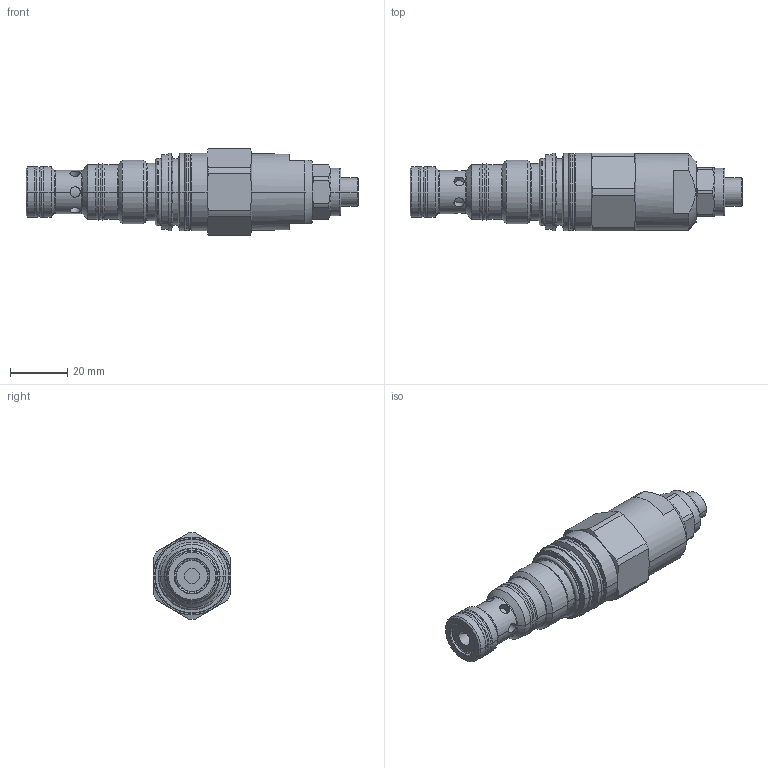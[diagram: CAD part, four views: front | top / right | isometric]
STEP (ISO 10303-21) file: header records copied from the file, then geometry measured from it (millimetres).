
FILE_DESCRIPTION((''),'2;1');
FILE_NAME('SOB5A-BPY3_SIMPLE','2019-02-27T',('l.soukupova'),(''),'PRO/ENGINEER BY PARAMETRIC TECHNOLOGY CORPORATION, 2015440','PRO/ENGINEER BY PARAMETRIC TECHNOLOGY CORPORATION, 2015440','');
FILE_SCHEMA(('AUTOMOTIVE_DESIGN { 1 0 10303 214 1 1 1 1 }'));
Length unit declared in the file: millimetre
Products named in the file (1): SOB5A-BPY3_SIMPLE
Bounding box: 115.5 x 27.08 x 29.99 mm (x, y, z)
Volume: 44327.5 mm3; surface area: 10592.1 mm2
Topology: 1 solids, 1 shells, 219 faces, 487 edges, 294 vertices
Faces by surface type: cylinder 89, cone 56, plane 45, torus 29
Entity records: 9345 total; most frequent: CARTESIAN_POINT 2964, DIRECTION 1068, ORIENTED_EDGE 968, PRESENTATION_STYLE_ASSIGNMENT 489, STYLED_ITEM 489, CURVE_STYLE 488, EDGE_CURVE 484, AXIS2_PLACEMENT_3D 449
